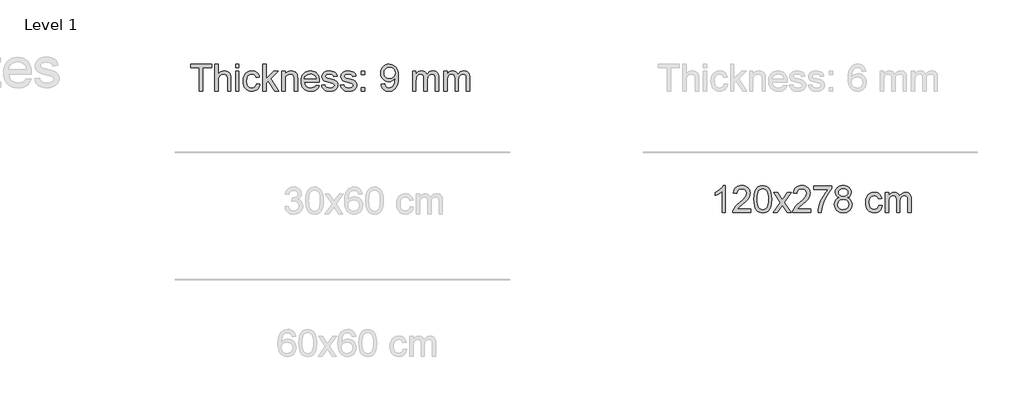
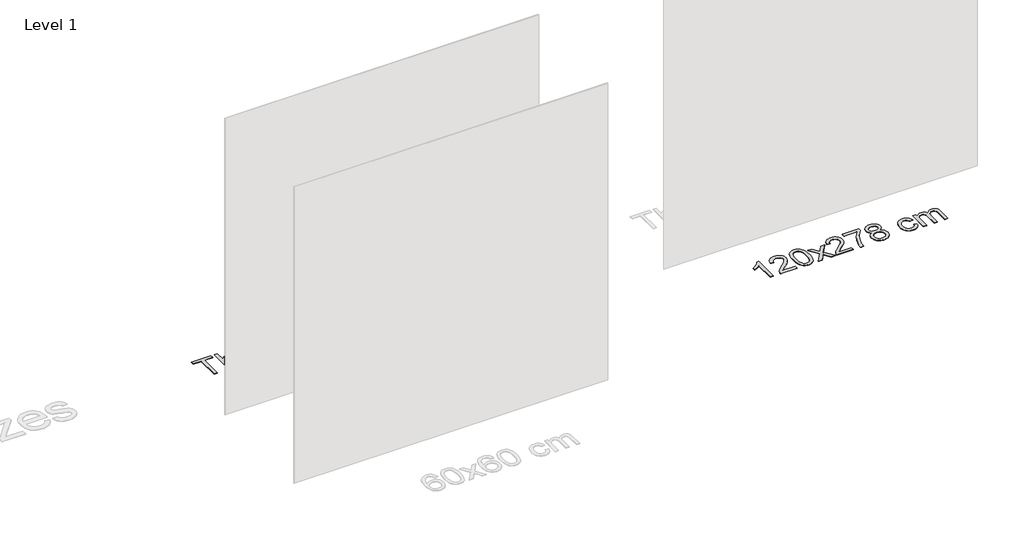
# One storey, part 3 of 7: 2 proxies.
"""IFC4 building model written with IfcOpenShell, lengths in millimetres."""

import ifcopenshell
import ifcopenshell.guid

model = None  # the IFC model being written
_history = None  # IfcOwnerHistory: only IFC2X3 demands one
_inside = {}  # id of a spatial element -> (the spatial element, [elements in it])
_under = {}  # id of a project, library or spatial element -> (it, [spatial elements below it])
_declared = {}  # id of a project -> (the project, [libraries it declares])
_typed = {}  # id of a type object -> (the type object, [elements of that type])
_made_of = {}  # id of a material, layer set ... -> (it, [elements and type objects made of it])


def new_model(schema):
    """Start an empty IFC model of exactly this schema.

    Asked for "IFC4X3", IfcOpenShell would pick the latest addendum, in which some entities
    have other attributes; the version numbers below select the first issue.
    IFC2X3 requires an IfcOwnerHistory on every rooted entity: one is made here for all.
    """
    global model, _history
    if schema == "IFC4X3":
        model = ifcopenshell.file(schema_version=(4, 3, 0, 0))
    else:
        model = ifcopenshell.file(schema=schema)
    _inside.clear()
    _under.clear()
    _declared.clear()
    _typed.clear()
    _made_of.clear()
    _history = None
    if model.schema == "IFC2X3":
        org = make("IfcOrganization", Name="unknown")
        user = make(
            "IfcPersonAndOrganization",
            ThePerson=make("IfcPerson", FamilyName="unknown"),
            TheOrganization=org,
        )
        app = make(
            "IfcApplication",
            ApplicationDeveloper=org,
            Version="unknown",
            ApplicationFullName="unknown",
            ApplicationIdentifier="unknown",
        )
        _history = make(
            "IfcOwnerHistory",
            OwningUser=user,
            OwningApplication=app,
            ChangeAction="ADDED",
            CreationDate=0,
        )
    return model


def make(cls, **values):
    """One entity of the class cls with the attributes given. An attribute that is None is left unset."""
    return model.create_entity(
        cls, **{name: value for name, value in values.items() if value is not None}
    )


def rooted(cls, **values):
    """An entity with a GlobalId (a new one), such as an element, a storey or a relation."""
    return make(cls, GlobalId=ifcopenshell.guid.new(), OwnerHistory=_history, **values)


def si_unit(unit_type, name, prefix=None):
    """IfcSIUnit, for example si_unit("LENGTHUNIT", "METRE", prefix="MILLI")."""
    return make("IfcSIUnit", UnitType=unit_type, Prefix=prefix, Name=name)


def assignment(units):
    """IfcUnitAssignment: the units of a project."""
    return None if units is None else make("IfcUnitAssignment", Units=units)


def point(xyz):
    """IfcCartesianPoint."""
    return None if xyz is None else make("IfcCartesianPoint", Coordinates=xyz)


def direction(xyz):
    """IfcDirection."""
    return None if xyz is None else make("IfcDirection", DirectionRatios=xyz)


def frame(location, z_axis=None, x_axis=None):
    """IfcAxis2Placement3D, a coordinate frame: its origin and axes. An axis left out is left unset."""
    return make(
        "IfcAxis2Placement3D",
        Location=point(location),
        Axis=direction(z_axis),
        RefDirection=direction(x_axis),
    )


def origin():
    """The frame at (0, 0, 0) with its axes left unset."""
    return frame((0.0, 0.0, 0.0))


def origin_with_axes():
    """The frame at (0, 0, 0) with the z axis (0, 0, 1) and the x axis (1, 0, 0) written out."""
    return frame((0.0, 0.0, 0.0), z_axis=(0.0, 0.0, 1.0), x_axis=(1.0, 0.0, 0.0))


def place(relative_to, where):
    """IfcLocalPlacement: puts the frame where relative to a parent placement (None: the world)."""
    return make(
        "IfcLocalPlacement", PlacementRelTo=relative_to, RelativePlacement=where
    )


def context(
    kind, dimensions, precision=None, world=None, true_north=None, identifier=None
):
    """IfcGeometricRepresentationContext, for example the 3D "Model" context."""
    return make(
        "IfcGeometricRepresentationContext",
        ContextIdentifier=identifier,
        ContextType=kind,
        CoordinateSpaceDimension=dimensions,
        Precision=precision,
        WorldCoordinateSystem=world,
        TrueNorth=true_north,
    )


def project(units=None, contexts=None):
    """IfcProject with its units and contexts."""
    return rooted(
        "IfcProject",
        Name="project",
        RepresentationContexts=contexts,
        UnitsInContext=assignment(units),
    )


def spatial(cls, under=None, at=None, **own):
    """A site, building, storey or space (cls), placed at a placement, below another one or the project."""
    s = rooted(cls, ObjectPlacement=at, **own)
    if under is not None:
        _under.setdefault(under.id(), (under, []))[1].append(s)
    return s


def polyline(points):
    """IfcPolyline through the points."""
    return make("IfcPolyline", Points=[point(p) for p in points])


def outline(outer, holes=None, kind="AREA"):
    """IfcArbitraryClosedProfileDef: a profile drawn as a closed curve; with holes, ...WithVoids."""
    if holes is None:
        return make("IfcArbitraryClosedProfileDef", ProfileType=kind, OuterCurve=outer)
    return make(
        "IfcArbitraryProfileDefWithVoids",
        ProfileType=kind,
        OuterCurve=outer,
        InnerCurves=holes,
    )


def extrude(swept, where, along, depth):
    """IfcExtrudedAreaSolid: the profile swept, set in the frame where, extruded along a direction by depth."""
    return make(
        "IfcExtrudedAreaSolid",
        SweptArea=swept,
        Position=where,
        ExtrudedDirection=direction(along),
        Depth=depth,
    )


def shape(context_of_items, identifier, shape_type, items):
    """IfcShapeRepresentation: the items that make up one representation, for example the "Body"."""
    return make(
        "IfcShapeRepresentation",
        ContextOfItems=context_of_items,
        RepresentationIdentifier=identifier,
        RepresentationType=shape_type,
        Items=items,
    )


def made_of(thing, what):
    """Note that an element or type object is made of a material, layer set ...; save() writes the relation."""
    if what is not None:
        _made_of.setdefault(what.id(), (what, []))[1].append(thing)
    return thing


def element(
    cls,
    number,
    at=None,
    inside=None,
    cuts=None,
    type_object=None,
    material=None,
    context=None,
    identifier="Body",
    shape_type=None,
    held_by="IfcProductDefinitionShape",
    body=None,
    shapes=None,
    **own,
):
    """One element of the class cls, such as IfcWall. Its Tag is "e" and its number.

    at: its placement. inside: the storey or other place that contains it. cuts: it is an
    opening in that element (IfcRelVoidsElement). A single representation is given by context,
    identifier, shape_type and body (its items); several are given by shapes. held_by: the class
    of the entity that holds the representations. save() writes the other relations.
    """
    e = rooted(cls, Tag="e%d" % number, ObjectPlacement=at, **own)
    if body is not None:
        shapes = [shape(context, identifier, shape_type, body)]
    if shapes is not None:
        e.Representation = make(held_by, Representations=shapes)
    if inside is not None:
        _inside.setdefault(inside.id(), (inside, []))[1].append(e)
    if cuts is not None:
        rooted(
            "IfcRelVoidsElement", RelatingBuildingElement=cuts, RelatedOpeningElement=e
        )
    if type_object is not None:
        _typed.setdefault(type_object.id(), (type_object, []))[1].append(e)
    return made_of(e, material)


def aggregate(whole, parts):
    """IfcRelAggregates: a whole, such as a stair, and the parts it consists of."""
    return rooted("IfcRelAggregates", RelatingObject=whole, RelatedObjects=parts)


def save(model, path):
    """Write the relations noted so far, then the file.

    IfcRelAggregates (storeys below a building ...), IfcRelContainedInSpatialStructure (elements
    in a storey), IfcRelDefinesByType, IfcRelAssociatesMaterial and IfcRelDeclares: one each for
    every whole, place, type object, material and project.
    """
    for whole, parts in _under.values():
        aggregate(whole, parts)
    for where, things in _inside.values():
        rooted(
            "IfcRelContainedInSpatialStructure",
            RelatedElements=things,
            RelatingStructure=where,
        )
    for kind, things in _typed.values():
        rooted("IfcRelDefinesByType", RelatedObjects=things, RelatingType=kind)
    for what, things in _made_of.values():
        rooted("IfcRelAssociatesMaterial", RelatedObjects=things, RelatingMaterial=what)
    for by, libraries in _declared.values():
        rooted("IfcRelDeclares", RelatingContext=by, RelatedDefinitions=libraries)
    model.write(path)


model = new_model("IFC4")

# Units and contexts
model_context = context("Model", 3, world=origin())
ifc_project = project(units=[si_unit("LENGTHUNIT", "METRE", prefix="MILLI")], contexts=[model_context])

# Site, building, storey
site = spatial("IfcSite", under=ifc_project)
building = spatial("IfcBuilding", under=site)
storey = spatial("IfcBuildingStorey", under=building, Name="Level 1", Elevation=0.0)

# Proxies
placement = place(None, origin())
element("IfcBuildingElementProxy", 1, Name="400mm Arial", ObjectType="400mm Arial", at=placement, inside=storey, context=model_context, shape_type="SweptSolid", body=[
    extrude(outline(polyline([(-16085.008477, 11625.1077423), (-16085.008477, 11976.7048278), (-16216.8573841, 11976.7048278), (-16216.8573841, 12026.9329829), (-15902.9314149, 12026.9329829), (-15902.9314149, 11976.7048278), (-16034.7803219, 11976.7048278), (-16034.7803219, 11625.1077423), (-16085.008477, 11625.1077423)])), origin_with_axes(), (0.0, 0.0, 1.0), 5.0),
    extrude(outline(polyline([(-15852.7032598, 11625.1077423), (-15852.7032598, 12026.9329829), (-15802.4751047, 12026.9329829), (-15802.4751047, 11879.1915736), (-15784.0258227, 11899.8788045), (-15763.307935, 11914.655398), (-15740.3214416, 11923.5213541), (-15715.0663427, 11926.4766728), (-15684.7283408, 11923.2515739), (-15658.6577701, 11913.5762775), (-15638.1299547, 11898.2110728), (-15624.420219, 11877.9162494), (-15616.6946971, 11850.0307942), (-15614.1195232, 11811.893694), (-15614.1195232, 11625.1077423), (-15664.3476783, 11625.1077423), (-15664.3476783, 11806.6942951), (-15668.3453293, 11838.135943), (-15680.3382823, 11859.6693024), (-15699.6643498, 11872.1037139), (-15725.6613441, 11876.2485177), (-15746.8881352, 11873.4526145), (-15766.8150766, 11865.064905), (-15783.3207155, 11851.8947296), (-15794.283599, 11834.7514286), (-15800.4272283, 11811.9672704), (-15802.4751047, 11781.8745232), (-15802.4751047, 11625.1077423), (-15852.7032598, 11625.1077423)])), origin_with_axes(), (0.0, 0.0, 1.0), 5.0),
    extrude(outline(polyline([(-15545.05581, 11625.1077423), (-15545.05581, 11920.1981534), (-15494.8276549, 11920.1981534), (-15494.8276549, 11625.1077423), (-15545.05581, 11625.1077423)])), origin_with_axes(), (0.0, 0.0, 1.0), 5.0),
    extrude(outline(polyline([(-15545.05581, 11976.7048278), (-15545.05581, 12026.9329829), (-15494.8276549, 12026.9329829), (-15494.8276549, 11976.7048278), (-15545.05581, 11976.7048278)])), origin_with_axes(), (0.0, 0.0, 1.0), 5.0),
    extrude(outline(polyline([(-15231.1298407, 11731.8425718), (-15180.9016857, 11725.5640525), (-15186.3647333, 11701.8632549), (-15194.9057269, 11680.8909155), (-15206.5246666, 11662.6470342), (-15221.2215523, 11647.1316111), (-15238.377116, 11634.7493163), (-15257.3720897, 11625.90482), (-15278.2064734, 11620.5981222), (-15300.880267, 11618.8292229), (-15329.0508308, 11621.297098), (-15354.3089955, 11628.7007231), (-15376.654761, 11641.0400984), (-15396.0881274, 11658.3152237), (-15411.8181484, 11680.2011368), (-15423.0538776, 11706.372875), (-15429.7953152, 11736.8304386), (-15432.042461, 11771.5738273), (-15428.2042256, 11816.2714897), (-15416.6895191, 11855.0094638), (-15397.3144007, 11886.2916961), (-15369.8949293, 11908.6221333), (-15337.0921181, 11922.0130379), (-15301.5669801, 11926.4766728), (-15279.2825282, 11924.9438311), (-15259.1256606, 11920.3453062), (-15241.0963771, 11912.6810979), (-15225.1946779, 11901.9512064), (-15211.690343, 11888.4008863), (-15200.8531525, 11872.2753921), (-15192.6831066, 11853.574724), (-15187.180205, 11832.298882), (-15237.4083601, 11826.0203626), (-15246.5195709, 11847.9338668), (-15260.7075531, 11863.642428), (-15279.187492, 11873.0969953), (-15301.1745726, 11876.2485177), (-15318.2412315, 11874.6972819), (-15333.6340273, 11870.0435747), (-15347.3529601, 11862.287396), (-15359.3980297, 11851.4287457), (-15369.2051506, 11837.216238), (-15376.2102369, 11819.3984867), (-15380.4132887, 11797.9754918), (-15381.814306, 11772.9472534), (-15376.3328642, 11725.8706208), (-15369.4810621, 11707.9333078), (-15359.888539, 11693.7299971), (-15348.0825927, 11682.9357263), (-15334.5905205, 11675.2255328), (-15319.4123225, 11670.5994167), (-15302.5479987, 11669.057378), (-15276.5387417, 11672.9078762), (-15255.2138487, 11684.4593709), (-15239.7014912, 11704.0061675), (-15231.1298407, 11731.8425718)])), origin_with_axes(), (0.0, 0.0, 1.0), 5.0),
    extrude(outline(polyline([(-15136.95205, 11625.1077423), (-15136.95205, 12026.9329829), (-15086.7238949, 12026.9329829), (-15086.7238949, 11811.0107772), (-14974.1029534, 11920.1981534), (-14904.6468328, 11920.1981534), (-15018.7393022, 11809.6373511), (-14898.3683134, 11625.1077423), (-14957.0332289, 11625.1077423), (-15054.7426868, 11774.713087), (-15086.7238949, 11743.6147957), (-15086.7238949, 11625.1077423), (-15136.95205, 11625.1077423)])), origin_with_axes(), (0.0, 0.0, 1.0), 5.0),
    extrude(outline(polyline([(-14854.4186777, 11625.1077423), (-14854.4186777, 11920.1981534), (-14804.1905226, 11920.1981534), (-14804.1905226, 11878.9953699), (-14786.7406533, 11899.7684399), (-14765.7836423, 11914.606347), (-14741.3194896, 11923.5090913), (-14713.3481953, 11926.4766728), (-14688.589737, 11924.0854398), (-14665.9159433, 11916.9117409), (-14647.0068088, 11905.8507556), (-14633.5423278, 11891.7976633), (-14624.4065916, 11874.7892524), (-14618.4836914, 11854.862311), (-14615.8349411, 11806.3018877), (-14615.8349411, 11625.1077423), (-14666.0630961, 11625.1077423), (-14666.0630961, 11799.532859), (-14667.5100987, 11825.5053278), (-14671.8511062, 11843.973004), (-14679.858671, 11857.2044931), (-14692.3053451, 11867.4684007), (-14708.259161, 11874.0534884), (-14726.7881508, 11876.2485177), (-14756.2064477, 11871.3188989), (-14781.283737, 11856.5300427), (-14791.3054557, 11844.4573819), (-14798.4638262, 11827.9578744), (-14802.7588485, 11807.0315203), (-14804.1905226, 11781.6783195), (-14804.1905226, 11625.1077423), (-14854.4186777, 11625.1077423)])), origin_with_axes(), (0.0, 0.0, 1.0), 5.0),
    extrude(outline(polyline([(-14340.1686994, 11713.0070137), (-14290.9215629, 11706.7284943), (-14298.4723409, 11687.003888), (-14308.6657378, 11669.6214637), (-14321.5017538, 11654.5812215), (-14336.9803887, 11641.8831613), (-14354.9422271, 11631.7970633), (-14375.2278535, 11624.5927075), (-14422.77047, 11618.8292229), (-14453.9362064, 11621.3154921), (-14481.7051656, 11628.7742995), (-14506.0773478, 11641.2056453), (-14527.0527529, 11658.6095293), (-14543.9201424, 11680.5015737), (-14555.9682777, 11706.3974005), (-14563.1971589, 11736.2970097), (-14565.606786, 11770.2004012), (-14563.1726335, 11805.253424), (-14555.8701759, 11836.1493802), (-14543.6994132, 11862.8882699), (-14526.6603454, 11885.470093), (-14505.7401226, 11903.4104717), (-14481.9258948, 11916.2250278), (-14455.217662, 11923.9137615), (-14425.6154241, 11926.4766728), (-14396.9666137, 11923.9198929), (-14371.0585242, 11916.2495533), (-14347.8911556, 11903.465654), (-14327.4645078, 11885.5681949), (-14310.7902564, 11863.0354227), (-14298.8800768, 11836.3455839), (-14291.733969, 11805.4986786), (-14289.3519331, 11770.4947068), (-14289.6462387, 11756.9566494), (-14515.3786309, 11756.9566494), (-14512.4692975, 11736.913212), (-14506.6843531, 11719.3591095), (-14498.0237978, 11704.2943418), (-14486.4876316, 11691.7189089), (-14472.7135165, 11681.8044891), (-14457.3391148, 11674.7227607), (-14421.7894513, 11669.057378), (-14395.056693, 11671.6816029), (-14372.5423149, 11679.5542776), (-14354.246317, 11693.1659114), (-14340.1686994, 11713.0070137)]), holes=[polyline([(-14515.3786309, 11807.1848045), (-14339.5800882, 11807.1848045), (-14346.3736423, 11833.721359), (-14359.6909706, 11852.70407), (-14373.3884435, 11863.0047659), (-14388.9743774, 11870.3624058), (-14406.4487721, 11874.7769897), (-14425.8116278, 11876.2485177), (-14459.6690341, 11871.5518909), (-14487.664854, 11857.4620105), (-14507.1258115, 11835.4994553), (-14515.3786309, 11807.1848045)])]), origin_with_axes(), (0.0, 0.0, 1.0), 5.0),
    extrude(outline(polyline([(-14257.9593362, 11713.0070137), (-14207.7311811, 11719.2855331), (-14199.8094555, 11697.8012246), (-14184.481039, 11682.0068242), (-14161.6478298, 11672.2947396), (-14131.2117261, 11669.057378), (-14101.1435044, 11672.0249594), (-14080.0025524, 11680.9277037), (-14067.4945645, 11693.828099), (-14063.3252352, 11708.7886335), (-14067.51909, 11721.5909269), (-14080.1006542, 11731.3520625), (-14131.8003373, 11745.6749349), (-14207.4368755, 11770.2494521), (-14226.579002, 11782.5980244), (-14240.4481532, 11798.9442478), (-14248.8726509, 11818.2457898), (-14251.6808168, 11839.4603182), (-14249.4244739, 11858.9212757), (-14242.6554452, 11876.8861798), (-14231.9868673, 11892.6437919), (-14218.031877, 11905.4828736), (-14186.0997198, 11920.3453062), (-14165.2162852, 11924.9438311), (-14142.8858481, 11926.4766728), (-14110.1934014, 11924.0118634), (-14081.7683859, 11916.6174353), (-14058.9106513, 11905.0168897), (-14042.9200472, 11889.9337279), (-14032.3250458, 11870.2520412), (-14025.6541189, 11844.8559208), (-14075.882274, 11838.5774014), (-14082.2221071, 11854.3840644), (-14094.7668831, 11866.2911783), (-14113.6392295, 11873.7591828), (-14138.9617735, 11876.2485177), (-14167.8037219, 11873.8695474), (-14187.0316875, 11866.7326367), (-14197.8474182, 11856.4319409), (-14201.4526617, 11844.5616152), (-14195.4684479, 11829.9444372), (-14176.7309916, 11818.8589264), (-14133.468069, 11808.1658231), (-14059.7445172, 11784.5232735), (-14040.2712969, 11773.2170336), (-14025.5069661, 11757.7414643), (-14016.1995517, 11738.0475148), (-14013.0970802, 11714.0861342), (-14016.7391119, 11689.3154132), (-14027.6652072, 11666.0162202), (-14045.458433, 11646.0157024), (-14069.7018565, 11631.141007), (-14098.9852633, 11621.9071689), (-14131.8984391, 11618.8292229), (-14158.9316344, 11620.3130136), (-14182.5435272, 11624.7643858), (-14202.7341173, 11632.1833393), (-14219.5034049, 11642.5698743), (-14233.2008779, 11655.8749398), (-14244.1760241, 11672.0494849), (-14252.4288435, 11691.0935095), (-14257.9593362, 11713.0070137)])), origin_with_axes(), (0.0, 0.0, 1.0), 5.0),
    extrude(outline(polyline([(-13975.4259639, 11713.0070137), (-13925.1978088, 11719.2855331), (-13917.2760832, 11697.8012246), (-13901.9476667, 11682.0068242), (-13879.1144575, 11672.2947396), (-13848.6783538, 11669.057378), (-13818.6101321, 11672.0249594), (-13797.4691801, 11680.9277037), (-13784.9611922, 11693.828099), (-13780.791863, 11708.7886335), (-13784.9857177, 11721.5909269), (-13797.5672819, 11731.3520625), (-13849.266965, 11745.6749349), (-13924.9035032, 11770.2494521), (-13944.0456297, 11782.5980244), (-13957.9147809, 11798.9442478), (-13966.3392786, 11818.2457898), (-13969.1474445, 11839.4603182), (-13966.8911016, 11858.9212757), (-13960.1220729, 11876.8861798), (-13949.453495, 11892.6437919), (-13935.4985047, 11905.4828736), (-13903.5663475, 11920.3453062), (-13882.6829129, 11924.9438311), (-13860.3524758, 11926.4766728), (-13827.6600291, 11924.0118634), (-13799.2350136, 11916.6174353), (-13776.377279, 11905.0168897), (-13760.386675, 11889.9337279), (-13749.7916735, 11870.2520412), (-13743.1207466, 11844.8559208), (-13793.3489017, 11838.5774014), (-13799.6887348, 11854.3840644), (-13812.2335108, 11866.2911783), (-13831.1058572, 11873.7591828), (-13856.4284012, 11876.2485177), (-13885.2703496, 11873.8695474), (-13904.4983152, 11866.7326367), (-13915.3140459, 11856.4319409), (-13918.9192894, 11844.5616152), (-13912.9350756, 11829.9444372), (-13894.1976193, 11818.8589264), (-13850.9346967, 11808.1658231), (-13777.2111449, 11784.5232735), (-13757.7379246, 11773.2170336), (-13742.9735938, 11757.7414643), (-13733.6661794, 11738.0475148), (-13730.5637079, 11714.0861342), (-13734.2057396, 11689.3154132), (-13745.1318349, 11666.0162202), (-13762.9250607, 11646.0157024), (-13787.1684842, 11631.141007), (-13816.451891, 11621.9071689), (-13849.3650669, 11618.8292229), (-13876.3982621, 11620.3130136), (-13900.0101549, 11624.7643858), (-13920.200745, 11632.1833393), (-13936.9700326, 11642.5698743), (-13950.6675056, 11655.8749398), (-13961.6426518, 11672.0494849), (-13969.8954712, 11691.0935095), (-13975.4259639, 11713.0070137)])), origin_with_axes(), (0.0, 0.0, 1.0), 5.0),
    extrude(outline(polyline([(-13661.4999946, 11869.9699983), (-13661.4999946, 11920.1981534), (-13611.2718396, 11920.1981534), (-13611.2718396, 11869.9699983), (-13661.4999946, 11869.9699983)])), origin_with_axes(), (0.0, 0.0, 1.0), 5.0),
    extrude(outline(polyline([(-13661.4999946, 11625.1077423), (-13661.4999946, 11675.3358974), (-13611.2718396, 11675.3358974), (-13611.2718396, 11625.1077423), (-13661.4999946, 11625.1077423)])), origin_with_axes(), (0.0, 0.0, 1.0), 5.0),
    extrude(outline(polyline([(-13366.4095836, 11725.5640525), (-13316.1814285, 11731.8425718), (-13307.5975153, 11703.3317172), (-13293.6179995, 11683.9198106), (-13274.5862376, 11672.7729861), (-13250.8455862, 11669.057378), (-13229.5452186, 11671.448611), (-13210.182363, 11678.6223099), (-13194.093657, 11689.7936598), (-13182.6157388, 11704.1778458), (-13166.1836763, 11747.8331759), (-13160.7390228, 11776.2336659), (-13158.9241383, 11806.1056839), (-13159.2184439, 11815.9158705), (-13176.6192623, 11794.6768166), (-13199.3911578, 11777.8523467), (-13225.8909242, 11766.8894632), (-13254.4753552, 11763.2351688), (-13278.3355683, 11765.4669862), (-13300.2766636, 11772.1624385), (-13320.2986412, 11783.3215257), (-13338.401501, 11798.9442478), (-13353.4018894, 11818.2151329), (-13364.1164525, 11840.3187095), (-13370.5451903, 11865.2549774), (-13372.688103, 11893.0239367), (-13370.4409571, 11921.7187323), (-13363.6995196, 11947.4704719), (-13352.4637903, 11970.2791556), (-13336.7337693, 11990.1447834), (-13317.619234, 12006.2396207), (-13296.2299616, 12017.735933), (-13272.5659523, 12024.6337204), (-13246.627206, 12026.9329829), (-13209.1645561, 12021.6845331), (-13175.0618952, 12005.9391837), (-13146.5387778, 11980.4817496), (-13125.8147587, 11946.0970458), (-13113.1964063, 11898.5666921), (-13108.9902888, 11833.6723081), (-13113.1841436, 11764.8661123), (-13125.7657078, 11711.6826385), (-13146.6246169, 11671.7183911), (-13160.1166891, 11655.7921664), (-13175.6505064, 11642.5698743), (-13192.913369, 11632.1833393), (-13211.5925773, 11624.7643858), (-13253.2000309, 11618.8292229), (-13275.7573286, 11620.5797281), (-13296.1441225, 11625.8312436), (-13314.3604126, 11634.5837694), (-13330.406199, 11646.8373055), (-13343.8768114, 11662.2607581), (-13354.3675796, 11680.5230335), (-13361.8785037, 11701.6241316), (-13366.4095836, 11725.5640525)]), holes=[polyline([(-13159.2184439, 11894.201159), (-13164.638572, 11928.2425063), (-13171.413732, 11942.320124), (-13180.8989562, 11954.4357044), (-13192.6282604, 11964.1784459), (-13206.135661, 11971.137547), (-13238.4847511, 11976.7048278), (-13256.094036, 11975.2057087), (-13272.0355891, 11970.7083513), (-13286.3094105, 11963.2127557), (-13298.9155002, 11952.7189217), (-13309.2161961, 11939.8399862), (-13316.573836, 11925.1890858), (-13320.9884199, 11908.7662204), (-13322.4599479, 11890.57139), (-13316.892667, 11859.5344124), (-13309.933566, 11846.4163536), (-13300.1908245, 11834.8985814), (-13288.0691127, 11825.5206562), (-13273.9731009, 11818.8221382), (-13239.8581772, 11813.4633238), (-13207.7666045, 11818.8221382), (-13181.9290257, 11834.8985814), (-13171.9931462, 11846.6432141), (-13164.8960894, 11860.4418546), (-13159.2184439, 11894.201159)])]), origin_with_axes(), (0.0, 0.0, 1.0), 5.0),
    extrude(outline(polyline([(-12895.5206298, 11625.1077423), (-12895.5206298, 11920.1981534), (-12845.2924747, 11920.1981534), (-12845.2924747, 11871.63773), (-12830.1847874, 11893.9436416), (-12810.7606181, 11911.4180364), (-12787.6821542, 11922.7120137), (-12761.6115835, 11926.4766728), (-12733.6770773, 11922.6384373), (-12711.2853266, 11911.1237308), (-12694.5589585, 11892.6928429), (-12683.6206005, 11868.1060629), (-12665.3123399, 11893.6432047), (-12644.4289053, 11911.8840203), (-12620.9702968, 11922.8285096), (-12594.9365142, 11926.4766728), (-12574.8286975, 11924.9591595), (-12557.1795588, 11920.4066198), (-12541.9890981, 11912.8190537), (-12529.2573154, 11902.1964611), (-12519.1926771, 11888.4162147), (-12512.0036498, 11871.3556871), (-12507.6902334, 11851.0148785), (-12506.2524279, 11827.3937887), (-12506.2524279, 11625.1077423), (-12556.480583, 11625.1077423), (-12556.480583, 11805.8113783), (-12557.6455427, 11830.8641422), (-12561.1404216, 11847.7499258), (-12567.6887211, 11859.3136832), (-12578.0139425, 11868.4003684), (-12591.2944825, 11874.2864804), (-12606.7087381, 11876.2485177), (-12633.919743, 11871.2207971), (-12656.1030273, 11856.1376353), (-12664.7084003, 11844.5677465), (-12670.8550953, 11829.9689627), (-12675.7724513, 11791.6847097), (-12675.7724513, 11625.1077423), (-12726.0006064, 11625.1077423), (-12726.0006064, 11811.4031847), (-12728.9068741, 11839.8036747), (-12737.6256774, 11860.0617099), (-12752.9663566, 11872.2018157), (-12775.7382521, 11876.2485177), (-12795.0888451, 11873.5507164), (-12812.9188591, 11865.4573125), (-12827.6341389, 11852.1645097), (-12837.6405292, 11833.8685118), (-12843.3794883, 11808.4846542), (-12845.2924747, 11773.9282721), (-12845.2924747, 11625.1077423), (-12895.5206298, 11625.1077423)])), origin_with_axes(), (0.0, 0.0, 1.0), 5.0),
    extrude(outline(polyline([(-12430.9101953, 11625.1077423), (-12430.9101953, 11920.1981534), (-12380.6820402, 11920.1981534), (-12380.6820402, 11871.63773), (-12365.574353, 11893.9436416), (-12346.1501836, 11911.4180364), (-12323.0717198, 11922.7120137), (-12297.0011491, 11926.4766728), (-12269.0666429, 11922.6384373), (-12246.6748921, 11911.1237308), (-12229.9485241, 11892.6928429), (-12219.0101661, 11868.1060629), (-12200.7019055, 11893.6432047), (-12179.8184709, 11911.8840203), (-12156.3598623, 11922.8285096), (-12130.3260798, 11926.4766728), (-12110.2182631, 11924.9591595), (-12092.5691244, 11920.4066198), (-12077.3786636, 11912.8190537), (-12064.6468809, 11902.1964611), (-12054.5822427, 11888.4162147), (-12047.3932153, 11871.3556871), (-12043.079799, 11851.0148785), (-12041.6419935, 11827.3937887), (-12041.6419935, 11625.1077423), (-12091.8701486, 11625.1077423), (-12091.8701486, 11805.8113783), (-12093.0351082, 11830.8641422), (-12096.5299872, 11847.7499258), (-12103.0782867, 11859.3136832), (-12113.403508, 11868.4003684), (-12126.684048, 11874.2864804), (-12142.0983036, 11876.2485177), (-12169.3093085, 11871.2207971), (-12191.4925929, 11856.1376353), (-12200.0979659, 11844.5677465), (-12206.2446609, 11829.9689627), (-12211.1620169, 11791.6847097), (-12211.1620169, 11625.1077423), (-12261.3901719, 11625.1077423), (-12261.3901719, 11811.4031847), (-12264.2964397, 11839.8036747), (-12273.015243, 11860.0617099), (-12288.3559222, 11872.2018157), (-12311.1278177, 11876.2485177), (-12330.4784106, 11873.5507164), (-12348.3084247, 11865.4573125), (-12363.0237045, 11852.1645097), (-12373.0300947, 11833.8685118), (-12378.7690539, 11808.4846542), (-12380.6820402, 11773.9282721), (-12380.6820402, 11625.1077423), (-12430.9101953, 11625.1077423)])), origin_with_axes(), (0.0, 0.0, 1.0), 5.0),
])
element("IfcBuildingElementProxy", 2, Name="400mm Arial", ObjectType="400mm Arial", at=placement, inside=storey, context=model_context, shape_type="SweptSolid", body=[
    extrude(outline(polyline([(-8215.9447638, 9805.1077423), (-8266.1729189, 9805.1077423), (-8266.1729189, 10118.2488966), (-8287.1421926, 10101.2895366), (-8313.7523236, 10084.3547021), (-8366.629229, 10058.9953699), (-8366.629229, 10106.4766728), (-8327.1800164, 10127.9364558), (-8293.003779, 10153.4674663), (-8266.0625543, 10180.6171575), (-8248.3183794, 10206.9329829), (-8215.9447638, 10206.9329829), (-8215.9447638, 9805.1077423)])), origin_with_axes(), (0.0, 0.0, 1.0), 5.0),
    extrude(outline(polyline([(-7839.2336007, 9855.3358974), (-7839.2336007, 9805.1077423), (-8102.9314149, 9805.1077423), (-8101.8277689, 9822.7906035), (-8097.5358123, 9839.7377008), (-8085.138189, 9866.8015529), (-8066.9770812, 9893.0560646), (-8040.7225695, 9920.5368497), (-8004.0447346, 9951.2795217), (-7949.8557167, 9999.4230122), (-7917.3717365, 10034.9604129), (-7901.1481405, 10063.8023613), (-7895.7402752, 10091.8594948), (-7900.8538349, 10117.0103605), (-7916.1945141, 10137.9183206), (-7939.77575, 10152.008201), (-7969.6109798, 10156.7048278), (-8000.9422631, 10152.1185656), (-8025.2837884, 10138.359779), (-8040.9923496, 10116.5075885), (-8046.4247404, 10087.6411146), (-8096.6528955, 10093.919634), (-8092.3333477, 10119.8491833), (-8084.4760014, 10142.5045828), (-8073.0808566, 10161.8858326), (-8058.1479133, 10177.9929326), (-8040.020528, 10190.6542046), (-8019.0420572, 10199.6979703), (-7995.212501, 10205.1242298), (-7968.5318593, 10206.9329829), (-7941.6120943, 10204.9218947), (-7917.6537794, 10198.8886299), (-7896.6569145, 10188.8331887), (-7878.6214997, 10174.7555711), (-7864.1361461, 10157.6981092), (-7853.789465, 10138.7031355), (-7847.5814563, 10117.77065), (-7845.5121201, 10094.9006526), (-7847.7439375, 10070.8779584), (-7854.4393899, 10047.272197), (-7866.3219783, 10023.2617654), (-7884.1152041, 9998.0250606), (-7912.478906, 9967.8955252), (-7956.0729224, 9929.206602), (-8013.8549211, 9880.8914333), (-8036.516452, 9855.3358974), (-7839.2336007, 9855.3358974)])), origin_with_axes(), (0.0, 0.0, 1.0), 5.0),
    extrude(outline(polyline([(-7789.0054456, 10002.783001), (-7785.314363, 10067.1010365), (-7774.2411149, 10118.3960494), (-7755.8960661, 10157.4528546), (-7744.0380031, 10172.6862348), (-7730.3895811, 10185.0562669), (-7714.9048148, 10194.6273302), (-7697.5377189, 10201.4638039), (-7657.1565386, 10206.9329829), (-7626.2054, 10203.6956213), (-7598.4916231, 10193.9835367), (-7575.3150574, 10178.1768736), (-7557.9755527, 10156.6557769), (-7544.8789536, 10129.6041875), (-7534.431105, 10097.2060465), (-7527.5884999, 10056.0645767), (-7525.3076315, 10002.783001), (-7528.961926, 9938.8328476), (-7539.9248094, 9887.660462), (-7558.1594937, 9848.5668687), (-7569.9899655, 9833.2875031), (-7583.6291905, 9820.8530917), (-7599.1323509, 9811.2176491), (-7616.554629, 9804.3351901), (-7657.1565386, 9798.8292229), (-7684.8212646, 9801.2204559), (-7709.346731, 9808.3941548), (-7730.7329376, 9820.3503196), (-7748.9798846, 9837.0889504), (-7766.4910675, 9867.3472445), (-7778.9990554, 9905.0490177), (-7786.5038481, 9950.1942698), (-7789.0054456, 10002.783001)]), holes=[polyline([(-7738.7772906, 10002.8811029), (-7737.3057626, 9959.2165758), (-7732.8911786, 9923.8723131), (-7725.5335387, 9896.8483149), (-7715.2328429, 9878.1445811), (-7702.773906, 9865.4189297), (-7688.941543, 9856.3291788), (-7673.7357538, 9850.8753282), (-7657.1565386, 9849.057378), (-7640.5773233, 9850.8814596), (-7625.3715342, 9856.3537042), (-7611.5391712, 9865.474112), (-7599.0802343, 9878.2426829), (-7588.7795384, 9896.9770736), (-7581.4218985, 9923.9949404), (-7577.0073146, 9959.2962835), (-7575.5357866, 10002.8811029), (-7576.9582636, 10045.3898675), (-7581.2256948, 10080.1117964), (-7588.33808, 10107.0468898), (-7598.2954193, 10126.1951477), (-7610.5458898, 10139.5431328), (-7624.5376683, 10149.0774078), (-7640.270755, 10154.7979728), (-7657.7451498, 10156.7048278), (-7674.2385259, 10155.0248334), (-7689.1867976, 10149.9848501), (-7702.589965, 10141.5848778), (-7714.448028, 10129.8249167), (-7725.0920803, 10108.9782703), (-7732.6949749, 10080.8720859), (-7737.2567117, 10045.5063634), (-7738.7772906, 10002.8811029)])]), origin_with_axes(), (0.0, 0.0, 1.0), 5.0),
    extrude(outline(polyline([(-7500.193554, 9805.1077423), (-7392.8701132, 9953.5358646), (-7493.9150346, 10100.1981534), (-7433.6804892, 10100.1981534), (-7384.9238621, 10029.4667084), (-7362.0661275, 9996.2101761), (-7342.2495507, 10023.4824946), (-7286.7238949, 10100.1981534), (-7226.2931458, 10100.1981534), (-7332.4393642, 9953.4377628), (-7230.2172204, 9805.1077423), (-7290.5498676, 9805.1077423), (-7352.1578391, 9894.3804398), (-7363.3414518, 9910.7634513), (-7439.7628049, 9805.1077423), (-7500.193554, 9805.1077423)])), origin_with_axes(), (0.0, 0.0, 1.0), 5.0),
    extrude(outline(polyline([(-6941.4053288, 9855.3358974), (-6941.4053288, 9805.1077423), (-7205.1031429, 9805.1077423), (-7203.9994969, 9822.7906035), (-7199.7075403, 9839.7377008), (-7187.3099171, 9866.8015529), (-7169.1488092, 9893.0560646), (-7142.8942975, 9920.5368497), (-7106.2164626, 9951.2795217), (-7052.0274447, 9999.4230122), (-7019.5434645, 10034.9604129), (-7003.3198685, 10063.8023613), (-6997.9120032, 10091.8594948), (-7003.0255629, 10117.0103605), (-7018.3662421, 10137.9183206), (-7041.947478, 10152.008201), (-7071.7827078, 10156.7048278), (-7103.1139911, 10152.1185656), (-7127.4555165, 10138.359779), (-7143.1640776, 10116.5075885), (-7148.5964684, 10087.6411146), (-7198.8246235, 10093.919634), (-7194.5050758, 10119.8491833), (-7186.6477295, 10142.5045828), (-7175.2525847, 10161.8858326), (-7160.3196414, 10177.9929326), (-7142.192256, 10190.6542046), (-7121.2137853, 10199.6979703), (-7097.384229, 10205.1242298), (-7070.7035873, 10206.9329829), (-7043.7838223, 10204.9218947), (-7019.8255074, 10198.8886299), (-6998.8286425, 10188.8331887), (-6980.7932277, 10174.7555711), (-6966.3078741, 10157.6981092), (-6955.961193, 10138.7031355), (-6949.7531844, 10117.77065), (-6947.6838481, 10094.9006526), (-6949.9156656, 10070.8779584), (-6956.6111179, 10047.272197), (-6968.4937063, 10023.2617654), (-6986.2869322, 9998.0250606), (-7014.650634, 9967.8955252), (-7058.2446504, 9929.206602), (-7116.0266491, 9880.8914333), (-7138.68818, 9855.3358974), (-6941.4053288, 9855.3358974)])), origin_with_axes(), (0.0, 0.0, 1.0), 5.0),
    extrude(outline(polyline([(-6891.1771737, 10150.4263084), (-6891.1771737, 10200.6544635), (-6627.4793595, 10200.6544635), (-6627.4793595, 10160.0402913), (-6665.0646367, 10112.4731493), (-6702.2820319, 10051.9810865), (-6735.1093686, 9984.082333), (-6759.5244703, 9914.2951185), (-6771.4928979, 9862.0804006), (-6778.1638248, 9805.1077423), (-6828.3919798, 9805.1077423), (-6822.959589, 9856.8810018), (-6808.4282502, 9918.4153968), (-6785.1903709, 9983.6408746), (-6753.6383584, 10046.4873821), (-6716.801108, 10103.3006249), (-6677.7075146, 10150.4263084), (-6891.1771737, 10150.4263084)])), origin_with_axes(), (0.0, 0.0, 1.0), 5.0),
    extrude(outline(polyline([(-6510.3457323, 10026.4255506), (-6537.2379061, 10039.6693024), (-6556.1102525, 10057.6219438), (-6567.2570769, 10079.9155927), (-6570.9726851, 10106.1823672), (-6568.9493341, 10126.6672629), (-6562.8792812, 10145.4476388), (-6552.7625263, 10162.5234947), (-6538.5990695, 10177.8948308), (-6521.0694924, 10190.5990223), (-6500.8543768, 10199.6734449), (-6477.9537226, 10205.1180984), (-6452.3675298, 10206.9329829), (-6426.6587097, 10205.0751788), (-6403.5863773, 10199.5017666), (-6383.1505324, 10190.2127462), (-6365.3511752, 10177.2081177), (-6350.930201, 10161.5363447), (-6340.6295052, 10144.2458909), (-6334.4490876, 10125.3367564), (-6332.3889485, 10104.808941), (-6336.0555057, 10079.3882952), (-6347.0551773, 10057.474791), (-6365.5105908, 10039.6325142), (-6391.5443733, 10026.4255506), (-6360.630023, 10010.4962602), (-6338.1279076, 9987.0376517), (-6324.4059092, 9957.1778964), (-6319.8319097, 9922.0451658), (-6322.1005153, 9896.992402), (-6328.9063323, 9874.0243027), (-6340.2493604, 9853.1408681), (-6356.1295999, 9834.3420982), (-6375.7131848, 9818.8052153), (-6398.1662492, 9807.7074417), (-6423.4887932, 9801.0487776), (-6451.6808168, 9798.8292229), (-6479.8728403, 9801.0579747), (-6505.1953843, 9807.7442299), (-6527.6484488, 9818.8879887), (-6547.2320337, 9834.489251), (-6563.1122731, 9853.4198453), (-6574.4553013, 9874.5516003), (-6581.2611182, 9897.8845158), (-6583.5297238, 9923.418592), (-6578.7717834, 9959.9124859), (-6564.497962, 9989.9316567), (-6541.4440236, 10012.4460348), (-6510.3457323, 10026.4255506)]), holes=[polyline([(-6520.74453, 10104.7108392), (-6516.2931579, 10082.7850723), (-6502.9390414, 10065.2738893), (-6481.0745882, 10053.795971), (-6451.0922056, 10049.9699983), (-6421.8087988, 10053.7714456), (-6400.2754393, 10065.1757874), (-6387.0316875, 10082.0983592), (-6382.6171036, 10102.4544963), (-6387.1788403, 10123.5831855), (-6400.8640505, 10141.0575803), (-6422.6917156, 10152.7930159), (-6451.6808168, 10156.7048278), (-6480.853859, 10152.8788551), (-6502.6447358, 10141.4009368), (-6516.2195815, 10124.5764669), (-6520.74453, 10104.7108392)]), polyline([(-6533.3015688, 9925.1844255), (-6531.2046414, 9905.9687226), (-6524.9138593, 9887.3661564), (-6513.301051, 9871.1425604), (-6495.238045, 9859.0637683), (-6473.6065837, 9851.5589756), (-6451.2884093, 9849.057378), (-6417.0999092, 9854.3180905), (-6403.2062325, 9860.8939812), (-6391.4462714, 9870.1002281), (-6375.4066164, 9894.0002951), (-6370.0600648, 9923.6147957), (-6375.5782947, 9953.7320684), (-6392.1329845, 9978.1594328), (-6404.2117767, 9987.6017374), (-6418.3752335, 9994.3462406), (-6452.956141, 9999.7418432), (-6486.6663945, 9994.419817), (-6500.4037214, 9987.7672843), (-6512.0625149, 9978.4537384), (-6527.9918053, 9954.4923578), (-6533.3015688, 9925.1844255)])]), origin_with_axes(), (0.0, 0.0, 1.0), 5.0),
    extrude(outline(polyline([(-5918.0066691, 9911.8425718), (-5867.778514, 9905.5640525), (-5873.2415617, 9881.8632549), (-5881.7825553, 9860.8909155), (-5893.401495, 9842.6470342), (-5908.0983807, 9827.1316111), (-5925.2539444, 9814.7493163), (-5944.2489181, 9805.90482), (-5965.0833018, 9800.5981222), (-5987.7570954, 9798.8292229), (-6015.9276592, 9801.297098), (-6041.1858238, 9808.7007231), (-6063.5315894, 9821.0400984), (-6082.9649557, 9838.3152237), (-6098.6949767, 9860.2011368), (-6109.930706, 9886.372875), (-6116.6721436, 9916.8304386), (-6118.9192894, 9951.5738273), (-6115.0810539, 9996.2714897), (-6103.5663475, 10035.0094638), (-6084.1912291, 10066.2916961), (-6056.7717577, 10088.6221333), (-6023.9689465, 10102.0130379), (-5988.4438085, 10106.4766728), (-5966.1593566, 10104.9438311), (-5946.0024889, 10100.3453062), (-5927.9732055, 10092.6810979), (-5912.0715063, 10081.9512064), (-5898.5671713, 10068.4008863), (-5887.7299809, 10052.2753921), (-5879.5599349, 10033.574724), (-5874.0570334, 10012.298882), (-5924.2851885, 10006.0203626), (-5933.3963992, 10027.9338668), (-5947.5843815, 10043.642428), (-5966.0643204, 10053.0969953), (-5988.051401, 10056.2485177), (-6005.1180599, 10054.6972819), (-6020.5108557, 10050.0435747), (-6034.2297884, 10042.287396), (-6046.2748581, 10031.4287457), (-6056.0819789, 10017.216238), (-6063.0870653, 9999.3984867), (-6067.2901171, 9977.9754918), (-6068.6911343, 9952.9472534), (-6063.2096926, 9905.8706208), (-6056.3578904, 9887.9333078), (-6046.7653674, 9873.7299971), (-6034.9594211, 9862.9357263), (-6021.4673489, 9855.2255328), (-6006.2891509, 9850.5994167), (-5989.4248271, 9849.057378), (-5963.41557, 9852.9078762), (-5942.0906771, 9864.4593709), (-5926.5783196, 9884.0061675), (-5918.0066691, 9911.8425718)])), origin_with_axes(), (0.0, 0.0, 1.0), 5.0),
    extrude(outline(polyline([(-5823.8288783, 9805.1077423), (-5823.8288783, 10100.1981534), (-5773.6007233, 10100.1981534), (-5773.6007233, 10051.63773), (-5758.493036, 10073.9436416), (-5739.0688667, 10091.4180364), (-5715.9904028, 10102.7120137), (-5689.9198321, 10106.4766728), (-5661.9853259, 10102.6384373), (-5639.5935752, 10091.1237308), (-5622.8672071, 10072.6928429), (-5611.9288491, 10048.1060629), (-5593.6205885, 10073.6432047), (-5572.7371539, 10091.8840203), (-5549.2785453, 10102.8285096), (-5523.2447628, 10106.4766728), (-5503.1369461, 10104.9591595), (-5485.4878074, 10100.4066198), (-5470.2973467, 10092.8190537), (-5457.5655639, 10082.1964611), (-5447.5009257, 10068.4162147), (-5440.3118984, 10051.3556871), (-5435.998482, 10031.0148785), (-5434.5606765, 10007.3937887), (-5434.5606765, 9805.1077423), (-5484.7888316, 9805.1077423), (-5484.7888316, 9985.8113783), (-5485.9537912, 10010.8641422), (-5489.4486702, 10027.7499258), (-5495.9969697, 10039.3136832), (-5506.322191, 10048.4003684), (-5519.6027311, 10054.2864804), (-5535.0169867, 10056.2485177), (-5562.2279916, 10051.2207971), (-5584.4112759, 10036.1376353), (-5593.0166489, 10024.5677465), (-5599.1633439, 10009.9689627), (-5604.0806999, 9971.6847097), (-5604.0806999, 9805.1077423), (-5654.308855, 9805.1077423), (-5654.308855, 9991.4031847), (-5657.2151227, 10019.8036747), (-5665.933926, 10040.0617099), (-5681.2746052, 10052.2018157), (-5704.0465007, 10056.2485177), (-5723.3970937, 10053.5507164), (-5741.2271077, 10045.4573125), (-5755.9423875, 10032.1645097), (-5765.9487778, 10013.8685118), (-5771.6877369, 9988.4846542), (-5773.6007233, 9953.9282721), (-5773.6007233, 9805.1077423), (-5823.8288783, 9805.1077423)])), origin_with_axes(), (0.0, 0.0, 1.0), 5.0),
])

save(model, "model.ifc")
